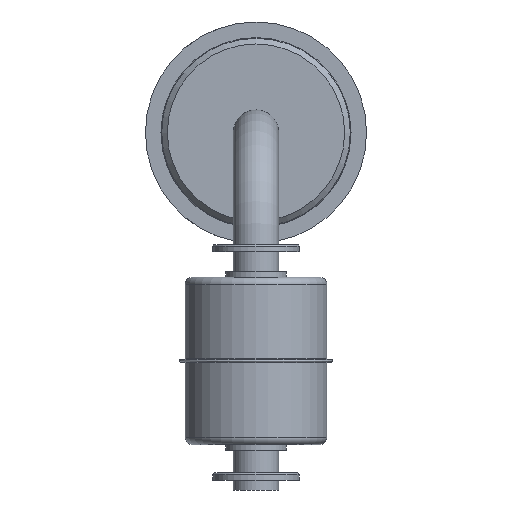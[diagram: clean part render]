
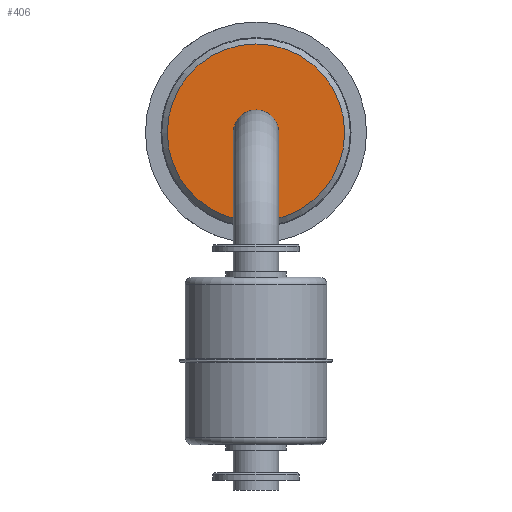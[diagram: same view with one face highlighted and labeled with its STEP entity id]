
A CAD part, front view. The second image highlights one B-rep face of the part: STEP entity #406.
In plain terms, the highlighted planar face has unit normal (0, -1, 0).
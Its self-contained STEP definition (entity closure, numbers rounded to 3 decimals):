
#406=ADVANCED_FACE('',(#539,#540),#501,.T.);
#501=PLANE('',#1485);
#539=FACE_BOUND('',#676,.T.);
#540=FACE_BOUND('',#677,.T.);
#676=EDGE_LOOP('',(#866));
#677=EDGE_LOOP('',(#867));
#866=ORIENTED_EDGE('',*,*,#1257,.F.);
#867=ORIENTED_EDGE('',*,*,#1258,.T.);
#1140=VERTEX_POINT('',#2127);
#1141=VERTEX_POINT('',#2129);
#1257=EDGE_CURVE('',#1140,#1140,#1388,.T.);
#1258=EDGE_CURVE('',#1141,#1141,#1389,.T.);
#1388=CIRCLE('',#1483,4.);
#1389=CIRCLE('',#1484,15.625);
#1483=AXIS2_PLACEMENT_3D('',#2126,#1690,#1691);
#1484=AXIS2_PLACEMENT_3D('',#2128,#1692,#1693);
#1485=AXIS2_PLACEMENT_3D('',#2130,#1694,#1695);
#1690=DIRECTION('',(0.,-1.,0.));
#1691=DIRECTION('',(0.,0.,-1.));
#1692=DIRECTION('',(0.,-1.,0.));
#1693=DIRECTION('',(1.,0.,0.));
#1694=DIRECTION('',(0.,-1.,0.));
#1695=DIRECTION('',(0.,0.,1.));
#2126=CARTESIAN_POINT('',(0.,-30.,0.));
#2127=CARTESIAN_POINT('',(0.,-30.,-4.));
#2128=CARTESIAN_POINT('',(0.,-30.,0.));
#2129=CARTESIAN_POINT('',(15.625,-30.,0.));
#2130=CARTESIAN_POINT('',(17.187,-30.,-17.187));
